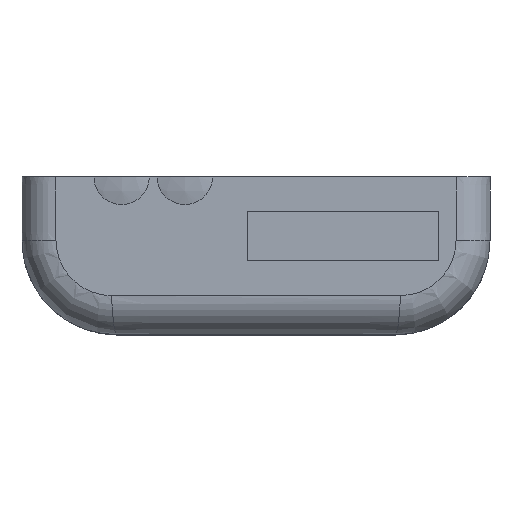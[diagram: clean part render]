
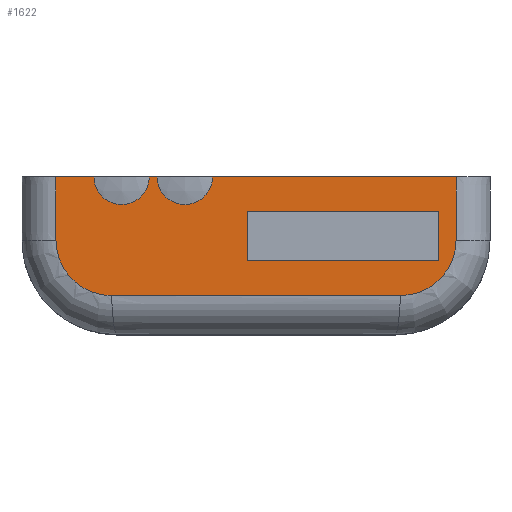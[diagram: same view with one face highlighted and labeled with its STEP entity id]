
A CAD part, front view. The second image highlights one B-rep face of the part: STEP entity #1622.
In plain terms, the highlighted planar face has unit normal (0, -1, 0).
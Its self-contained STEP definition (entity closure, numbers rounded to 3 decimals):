
#34 = VERTEX_POINT('',#35);
#35 = CARTESIAN_POINT('',(-25.3,-25.9,-8.));
#56 = EDGE_CURVE('',#57,#34,#59,.T.);
#57 = VERTEX_POINT('',#58);
#58 = CARTESIAN_POINT('',(-25.3,-25.9,0.));
#59 = B_SPLINE_CURVE_WITH_KNOTS('',8,(#60,#61,#62,#63,#64,#65,#66,#67,
    #68),.UNSPECIFIED.,.F.,.F.,(9,9),(6.,7.),.PIECEWISE_BEZIER_KNOTS.);
#60 = CARTESIAN_POINT('',(-25.3,-25.9,8.));
#61 = CARTESIAN_POINT('',(-25.3,-25.9,6.));
#62 = CARTESIAN_POINT('',(-25.3,-25.9,4.));
#63 = CARTESIAN_POINT('',(-25.3,-25.9,2.));
#64 = CARTESIAN_POINT('',(-25.3,-25.9,0.));
#65 = CARTESIAN_POINT('',(-25.3,-25.9,-2.));
#66 = CARTESIAN_POINT('',(-25.3,-25.9,-4.));
#67 = CARTESIAN_POINT('',(-25.3,-25.9,-6.));
#68 = CARTESIAN_POINT('',(-25.3,-25.9,-8.));
#1372 = EDGE_CURVE('',#1373,#57,#1375,.T.);
#1373 = VERTEX_POINT('',#1374);
#1374 = CARTESIAN_POINT('',(-20.5,-25.9,0.));
#1375 = LINE('',#1376,#1377);
#1376 = CARTESIAN_POINT('',(-59.15,-25.9,0.));
#1377 = VECTOR('',#1378,1.);
#1378 = DIRECTION('',(-1.,0.,0.));
#1381 = VERTEX_POINT('',#1382);
#1382 = CARTESIAN_POINT('',(-13.5,-25.9,0.));
#1389 = EDGE_CURVE('',#1390,#1381,#1392,.T.);
#1390 = VERTEX_POINT('',#1391);
#1391 = CARTESIAN_POINT('',(-12.5,-25.9,0.));
#1392 = LINE('',#1393,#1394);
#1393 = CARTESIAN_POINT('',(-59.15,-25.9,0.));
#1394 = VECTOR('',#1395,1.);
#1395 = DIRECTION('',(-1.,0.,0.));
#1398 = VERTEX_POINT('',#1399);
#1399 = CARTESIAN_POINT('',(-5.5,-25.9,0.));
#1406 = EDGE_CURVE('',#1407,#1398,#1409,.T.);
#1407 = VERTEX_POINT('',#1408);
#1408 = CARTESIAN_POINT('',(25.3,-25.9,0.));
#1409 = LINE('',#1410,#1411);
#1410 = CARTESIAN_POINT('',(-59.15,-25.9,0.));
#1411 = VECTOR('',#1412,1.);
#1412 = DIRECTION('',(-1.,0.,0.));
#1622 = ADVANCED_FACE('',(#1623,#1715),#1749,.T.);
#1623 = FACE_BOUND('',#1624,.T.);
#1624 = EDGE_LOOP('',(#1625,#1639,#1653,#1667,#1679,#1680,#1689,#1696,
    #1697,#1706,#1713,#1714));
#1625 = ORIENTED_EDGE('',*,*,#1626,.T.);
#1626 = EDGE_CURVE('',#34,#1627,#1629,.T.);
#1627 = VERTEX_POINT('',#1628);
#1628 = CARTESIAN_POINT('',(-18.3,-25.9,-15.));
#1629 = B_SPLINE_CURVE_WITH_KNOTS('',8,(#1630,#1631,#1632,#1633,#1634,
    #1635,#1636,#1637,#1638),.UNSPECIFIED.,.F.,.F.,(9,9),(7.,8.),
  .PIECEWISE_BEZIER_KNOTS.);
#1630 = CARTESIAN_POINT('',(-25.3,-25.9,-8.));
#1631 = CARTESIAN_POINT('',(-25.3,-25.9,-9.374));
#1632 = CARTESIAN_POINT('',(-24.992,-25.9,-10.749));
#1633 = CARTESIAN_POINT('',(-24.375,-25.9,-12.043));
#1634 = CARTESIAN_POINT('',(-23.475,-25.9,-13.175));
#1635 = CARTESIAN_POINT('',(-22.343,-25.9,-14.075));
#1636 = CARTESIAN_POINT('',(-21.049,-25.9,-14.692));
#1637 = CARTESIAN_POINT('',(-19.674,-25.9,-15.));
#1638 = CARTESIAN_POINT('',(-18.3,-25.9,-15.));
#1639 = ORIENTED_EDGE('',*,*,#1640,.T.);
#1640 = EDGE_CURVE('',#1627,#1641,#1643,.T.);
#1641 = VERTEX_POINT('',#1642);
#1642 = CARTESIAN_POINT('',(18.3,-25.9,-15.));
#1643 = B_SPLINE_CURVE_WITH_KNOTS('',8,(#1644,#1645,#1646,#1647,#1648,
    #1649,#1650,#1651,#1652),.UNSPECIFIED.,.F.,.F.,(9,9),(0.,1.),
  .PIECEWISE_BEZIER_KNOTS.);
#1644 = CARTESIAN_POINT('',(-18.3,-25.9,-15.));
#1645 = CARTESIAN_POINT('',(-13.725,-25.9,-15.));
#1646 = CARTESIAN_POINT('',(-9.15,-25.9,-15.));
#1647 = CARTESIAN_POINT('',(-4.575,-25.9,-15.));
#1648 = CARTESIAN_POINT('',(0.,-25.9,-15.));
#1649 = CARTESIAN_POINT('',(4.575,-25.9,-15.));
#1650 = CARTESIAN_POINT('',(9.15,-25.9,-15.));
#1651 = CARTESIAN_POINT('',(13.725,-25.9,-15.));
#1652 = CARTESIAN_POINT('',(18.3,-25.9,-15.));
#1653 = ORIENTED_EDGE('',*,*,#1654,.T.);
#1654 = EDGE_CURVE('',#1641,#1655,#1657,.T.);
#1655 = VERTEX_POINT('',#1656);
#1656 = CARTESIAN_POINT('',(25.3,-25.9,-8.));
#1657 = B_SPLINE_CURVE_WITH_KNOTS('',8,(#1658,#1659,#1660,#1661,#1662,
    #1663,#1664,#1665,#1666),.UNSPECIFIED.,.F.,.F.,(9,9),(1.,2.),
  .PIECEWISE_BEZIER_KNOTS.);
#1658 = CARTESIAN_POINT('',(18.3,-25.9,-15.));
#1659 = CARTESIAN_POINT('',(19.674,-25.9,-15.));
#1660 = CARTESIAN_POINT('',(21.049,-25.9,-14.692));
#1661 = CARTESIAN_POINT('',(22.343,-25.9,-14.075));
#1662 = CARTESIAN_POINT('',(23.475,-25.9,-13.175));
#1663 = CARTESIAN_POINT('',(24.375,-25.9,-12.043));
#1664 = CARTESIAN_POINT('',(24.992,-25.9,-10.749));
#1665 = CARTESIAN_POINT('',(25.3,-25.9,-9.374));
#1666 = CARTESIAN_POINT('',(25.3,-25.9,-8.));
#1667 = ORIENTED_EDGE('',*,*,#1668,.T.);
#1668 = EDGE_CURVE('',#1655,#1407,#1669,.T.);
#1669 = B_SPLINE_CURVE_WITH_KNOTS('',8,(#1670,#1671,#1672,#1673,#1674,
    #1675,#1676,#1677,#1678),.UNSPECIFIED.,.F.,.F.,(9,9),(2.,3.),
  .PIECEWISE_BEZIER_KNOTS.);
#1670 = CARTESIAN_POINT('',(25.3,-25.9,-8.));
#1671 = CARTESIAN_POINT('',(25.3,-25.9,-6.));
#1672 = CARTESIAN_POINT('',(25.3,-25.9,-4.));
#1673 = CARTESIAN_POINT('',(25.3,-25.9,-2.));
#1674 = CARTESIAN_POINT('',(25.3,-25.9,0.));
#1675 = CARTESIAN_POINT('',(25.3,-25.9,2.));
#1676 = CARTESIAN_POINT('',(25.3,-25.9,4.));
#1677 = CARTESIAN_POINT('',(25.3,-25.9,6.));
#1678 = CARTESIAN_POINT('',(25.3,-25.9,8.));
#1679 = ORIENTED_EDGE('',*,*,#1406,.T.);
#1680 = ORIENTED_EDGE('',*,*,#1681,.F.);
#1681 = EDGE_CURVE('',#1682,#1398,#1684,.T.);
#1682 = VERTEX_POINT('',#1683);
#1683 = CARTESIAN_POINT('',(-9.,-25.9,-3.5));
#1684 = CIRCLE('',#1685,3.5);
#1685 = AXIS2_PLACEMENT_3D('',#1686,#1687,#1688);
#1686 = CARTESIAN_POINT('',(-9.,-25.9,0.));
#1687 = DIRECTION('',(0.,-1.,0.));
#1688 = DIRECTION('',(0.,0.,-1.));
#1689 = ORIENTED_EDGE('',*,*,#1690,.F.);
#1690 = EDGE_CURVE('',#1390,#1682,#1691,.T.);
#1691 = CIRCLE('',#1692,3.5);
#1692 = AXIS2_PLACEMENT_3D('',#1693,#1694,#1695);
#1693 = CARTESIAN_POINT('',(-9.,-25.9,0.));
#1694 = DIRECTION('',(0.,-1.,0.));
#1695 = DIRECTION('',(0.,0.,-1.));
#1696 = ORIENTED_EDGE('',*,*,#1389,.T.);
#1697 = ORIENTED_EDGE('',*,*,#1698,.F.);
#1698 = EDGE_CURVE('',#1699,#1381,#1701,.T.);
#1699 = VERTEX_POINT('',#1700);
#1700 = CARTESIAN_POINT('',(-17.,-25.9,-3.5));
#1701 = CIRCLE('',#1702,3.5);
#1702 = AXIS2_PLACEMENT_3D('',#1703,#1704,#1705);
#1703 = CARTESIAN_POINT('',(-17.,-25.9,0.));
#1704 = DIRECTION('',(0.,-1.,0.));
#1705 = DIRECTION('',(0.,0.,-1.));
#1706 = ORIENTED_EDGE('',*,*,#1707,.F.);
#1707 = EDGE_CURVE('',#1373,#1699,#1708,.T.);
#1708 = CIRCLE('',#1709,3.5);
#1709 = AXIS2_PLACEMENT_3D('',#1710,#1711,#1712);
#1710 = CARTESIAN_POINT('',(-17.,-25.9,0.));
#1711 = DIRECTION('',(0.,-1.,0.));
#1712 = DIRECTION('',(0.,0.,-1.));
#1713 = ORIENTED_EDGE('',*,*,#1372,.T.);
#1714 = ORIENTED_EDGE('',*,*,#56,.T.);
#1715 = FACE_BOUND('',#1716,.T.);
#1716 = EDGE_LOOP('',(#1717,#1727,#1735,#1743));
#1717 = ORIENTED_EDGE('',*,*,#1718,.T.);
#1718 = EDGE_CURVE('',#1719,#1721,#1723,.T.);
#1719 = VERTEX_POINT('',#1720);
#1720 = CARTESIAN_POINT('',(23.1,-25.9,-10.6));
#1721 = VERTEX_POINT('',#1722);
#1722 = CARTESIAN_POINT('',(-1.1,-25.9,-10.6));
#1723 = LINE('',#1724,#1725);
#1724 = CARTESIAN_POINT('',(-9.7,-25.9,-10.6));
#1725 = VECTOR('',#1726,1.);
#1726 = DIRECTION('',(-1.,0.,0.));
#1727 = ORIENTED_EDGE('',*,*,#1728,.T.);
#1728 = EDGE_CURVE('',#1721,#1729,#1731,.T.);
#1729 = VERTEX_POINT('',#1730);
#1730 = CARTESIAN_POINT('',(-1.1,-25.9,-4.4));
#1731 = LINE('',#1732,#1733);
#1732 = CARTESIAN_POINT('',(-1.1,-25.9,-12.8));
#1733 = VECTOR('',#1734,1.);
#1734 = DIRECTION('',(0.,0.,1.));
#1735 = ORIENTED_EDGE('',*,*,#1736,.F.);
#1736 = EDGE_CURVE('',#1737,#1729,#1739,.T.);
#1737 = VERTEX_POINT('',#1738);
#1738 = CARTESIAN_POINT('',(23.1,-25.9,-4.4));
#1739 = LINE('',#1740,#1741);
#1740 = CARTESIAN_POINT('',(-9.7,-25.9,-4.4));
#1741 = VECTOR('',#1742,1.);
#1742 = DIRECTION('',(-1.,0.,0.));
#1743 = ORIENTED_EDGE('',*,*,#1744,.F.);
#1744 = EDGE_CURVE('',#1719,#1737,#1745,.T.);
#1745 = LINE('',#1746,#1747);
#1746 = CARTESIAN_POINT('',(23.1,-25.9,-12.8));
#1747 = VECTOR('',#1748,1.);
#1748 = DIRECTION('',(0.,0.,1.));
#1749 = PLANE('',#1750);
#1750 = AXIS2_PLACEMENT_3D('',#1751,#1752,#1753);
#1751 = CARTESIAN_POINT('',(-18.3,-25.9,-15.));
#1752 = DIRECTION('',(0.,-1.,0.));
#1753 = DIRECTION('',(0.845,0.,0.535));
